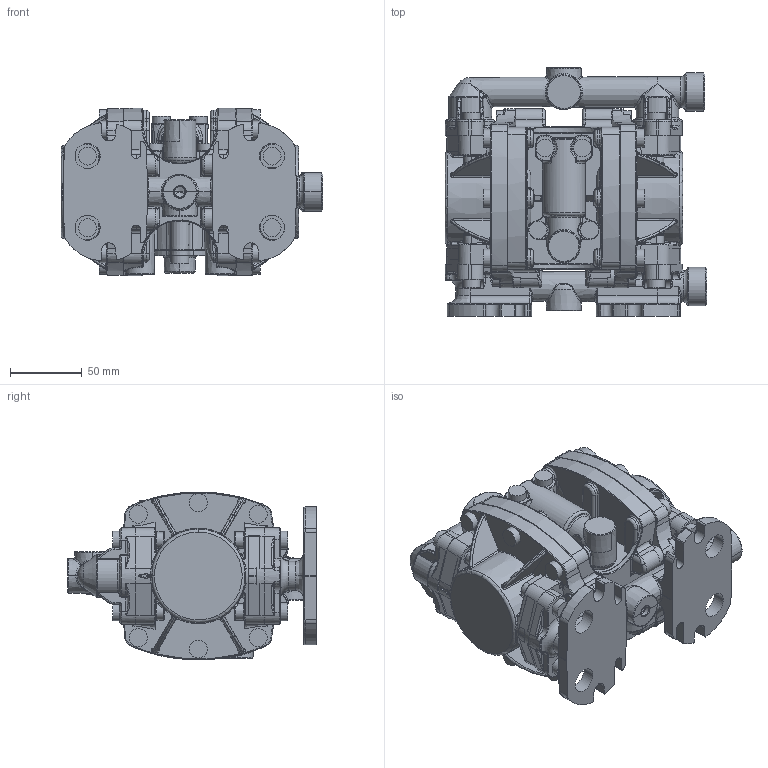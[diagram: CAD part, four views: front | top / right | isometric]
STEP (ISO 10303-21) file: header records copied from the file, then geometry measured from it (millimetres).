
FILE_DESCRIPTION(/* description */ (''),/* implementation_level */ '2;1');
FILE_NAME(/* name */ 'pd01P-XXX-XXX-A_E',/* time_stamp */ '2015-07-16T07:21:32-04:00',/* author */ (''),/* organization */ (''),/* preprocessor_version */ 'ST-DEVELOPER v9',/* originating_system */ 'UGS - NX 4.0',/* authorisation */ '');
FILE_SCHEMA (('CONFIG_CONTROL_DESIGN'));
Products named in the file (1): szee2CB8kvfc
Bounding box: 182.51 x 173.17 x 116.79 mm (x, y, z)
Volume: 1617299.7 mm3; surface area: 176749.8 mm2
Topology: 1 solids, 1 shells, 3128 faces, 7574 edges, 4450 vertices
Faces by surface type: bspline 1461, cylinder 692, plane 497, torus 229, cone 175, sphere 69, extrusion 5
Full cylindrical faces by diameter (mm): 12.5 x32
Entity records: 205588 total; most frequent: CARTESIAN_POINT 143850, ORIENTED_EDGE 15136, DIRECTION 9943, EDGE_CURVE 7568, VERTEX_POINT 4504, AXIS2_PLACEMENT_3D 4125, B_SPLINE_CURVE_WITH_KNOTS 3276, EDGE_LOOP 3200
